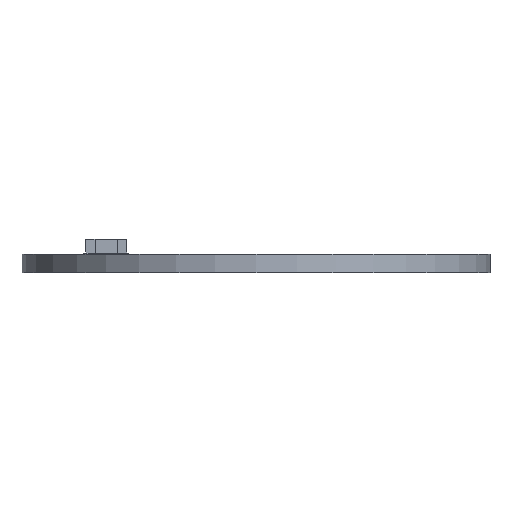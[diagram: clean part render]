
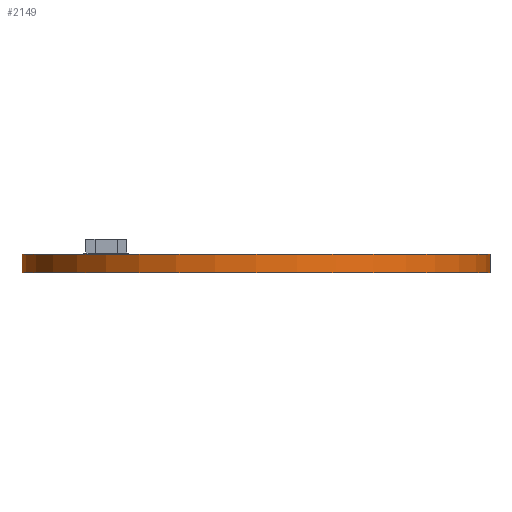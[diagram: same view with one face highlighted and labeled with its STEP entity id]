
A CAD part, front view. The second image highlights one B-rep face of the part: STEP entity #2149.
In plain terms, the highlighted cylindrical face has radius 12.5 mm (diameter 25 mm), a partial arc.
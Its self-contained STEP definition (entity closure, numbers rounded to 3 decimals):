
#208 = DIRECTION ( 'NONE',  ( 0., 0., 1. ) ) ;
#222 = CARTESIAN_POINT ( 'NONE',  ( -12.5, 0., 0. ) ) ;
#395 = AXIS2_PLACEMENT_3D ( 'NONE', #2286, #3386, #631 ) ;
#398 = AXIS2_PLACEMENT_3D ( 'NONE', #3431, #422, #1208 ) ;
#422 = DIRECTION ( 'NONE',  ( 0., 0., 1. ) ) ;
#457 = VERTEX_POINT ( 'NONE', #1086 ) ;
#631 = DIRECTION ( 'NONE',  ( 1., 0., 0. ) ) ;
#690 = ORIENTED_EDGE ( 'NONE', *, *, #2261, .F. ) ;
#712 = CARTESIAN_POINT ( 'NONE',  ( 12.5, 0., 0. ) ) ;
#791 = CIRCLE ( 'NONE', #395, 12.5 ) ;
#858 = VECTOR ( 'NONE', #2574, 1000. ) ;
#924 = ORIENTED_EDGE ( 'NONE', *, *, #2810, .T. ) ;
#1062 = ORIENTED_EDGE ( 'NONE', *, *, #1875, .F. ) ;
#1069 = VERTEX_POINT ( 'NONE', #712 ) ;
#1082 = AXIS2_PLACEMENT_3D ( 'NONE', #2404, #1822, #1534 ) ;
#1086 = CARTESIAN_POINT ( 'NONE',  ( -12.5, 0., -1. ) ) ;
#1142 = FACE_OUTER_BOUND ( 'NONE', #1307, .T. ) ;
#1162 = CARTESIAN_POINT ( 'NONE',  ( 12.5, 0., -1. ) ) ;
#1208 = DIRECTION ( 'NONE',  ( 1., 0., 0. ) ) ;
#1307 = EDGE_LOOP ( 'NONE', ( #690, #924, #1544, #1062 ) ) ;
#1534 = DIRECTION ( 'NONE',  ( 1., 0., 0. ) ) ;
#1544 = ORIENTED_EDGE ( 'NONE', *, *, #1848, .T. ) ;
#1822 = DIRECTION ( 'NONE',  ( 0., 0., 1. ) ) ;
#1848 = EDGE_CURVE ( 'NONE', #3055, #1069, #2832, .T. ) ;
#1875 = EDGE_CURVE ( 'NONE', #2064, #1069, #791, .T. ) ;
#2064 = VERTEX_POINT ( 'NONE', #222 ) ;
#2149 = ADVANCED_FACE ( 'NONE', ( #1142 ), #2248, .T. ) ;
#2248 = CYLINDRICAL_SURFACE ( 'NONE', #398, 12.5 ) ;
#2256 = CARTESIAN_POINT ( 'NONE',  ( 12.5, 0., -1. ) ) ;
#2261 = EDGE_CURVE ( 'NONE', #457, #2064, #3251, .T. ) ;
#2286 = CARTESIAN_POINT ( 'NONE',  ( 0., 0., 0. ) ) ;
#2404 = CARTESIAN_POINT ( 'NONE',  ( 0., 0., -1. ) ) ;
#2408 = CIRCLE ( 'NONE', #1082, 12.5 ) ;
#2574 = DIRECTION ( 'NONE',  ( 0., 0., 1. ) ) ;
#2810 = EDGE_CURVE ( 'NONE', #457, #3055, #2408, .T. ) ;
#2832 = LINE ( 'NONE', #2256, #858 ) ;
#3055 = VERTEX_POINT ( 'NONE', #1162 ) ;
#3211 = VECTOR ( 'NONE', #208, 1000. ) ;
#3251 = LINE ( 'NONE', #3266, #3211 ) ;
#3266 = CARTESIAN_POINT ( 'NONE',  ( -12.5, 0., -1. ) ) ;
#3386 = DIRECTION ( 'NONE',  ( 0., 0., 1. ) ) ;
#3431 = CARTESIAN_POINT ( 'NONE',  ( 0., 0., -1. ) ) ;
